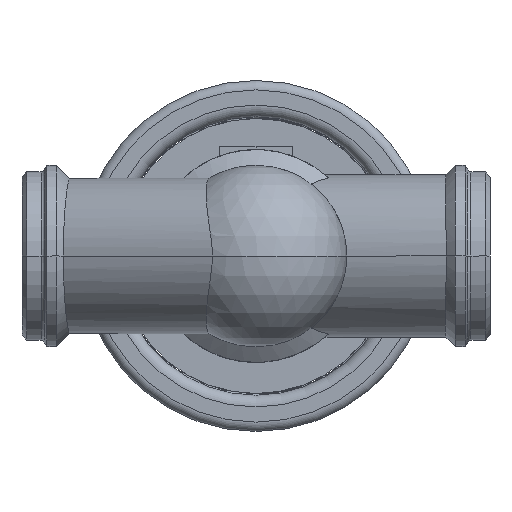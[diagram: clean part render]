
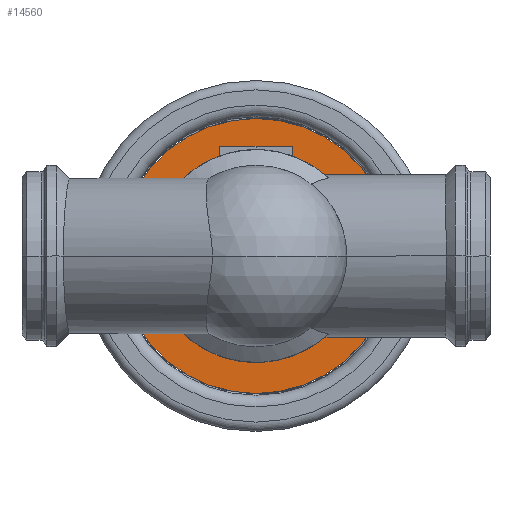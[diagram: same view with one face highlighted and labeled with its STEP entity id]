
A CAD part, front view. The second image highlights one B-rep face of the part: STEP entity #14560.
In plain terms, the highlighted planar face has unit normal (0, -1, 0).
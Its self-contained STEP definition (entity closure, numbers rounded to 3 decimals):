
#6540=CARTESIAN_POINT('',(291.,111.79,0.));
#6550=VERTEX_POINT('',#6540);
#6580=CARTESIAN_POINT('',(200.,111.79,0.));
#6590=DIRECTION('',(0.,1.,0.));
#6600=DIRECTION('',(1.,0.,0.));
#6610=AXIS2_PLACEMENT_3D('',#6580,#6590,#6600);
#6620=CIRCLE('',#6610,91.);
#6630=CARTESIAN_POINT('',(109.,111.79,0.));
#6640=VERTEX_POINT('',#6630);
#6650=EDGE_CURVE('',#6550,#6640,#6620,.T.);
#12080=CARTESIAN_POINT('',(82.5,111.79,0.));
#12090=VERTEX_POINT('',#12080);
#12140=CARTESIAN_POINT('',(200.,111.79,0.));
#12150=DIRECTION('',(0.,-1.,0.));
#12160=DIRECTION('',(1.,0.,0.));
#12170=AXIS2_PLACEMENT_3D('',#12140,#12150,#12160);
#12180=CIRCLE('',#12170,117.5);
#12190=CARTESIAN_POINT('',(317.5,111.79,0.));
#12200=VERTEX_POINT('',#12190);
#12210=EDGE_CURVE('',#12090,#12200,#12180,.T.);
#14410=CARTESIAN_POINT('',(304.75,111.79,0.));
#14420=DIRECTION('',(0.,-1.,0.));
#14430=DIRECTION('',(-1.,0.,0.));
#14440=AXIS2_PLACEMENT_3D('',#14410,#14420,#14430);
#14450=PLANE('',#14440);
#14460=EDGE_CURVE('',#12200,#12090,#12180,.T.);
#14470=ORIENTED_EDGE('',*,*,#14460,.T.);
#14480=ORIENTED_EDGE('',*,*,#12210,.T.);
#14490=EDGE_LOOP('',(#14480,#14470));
#14500=FACE_OUTER_BOUND('',#14490,.T.);
#14510=EDGE_CURVE('',#6640,#6550,#6620,.T.);
#14520=ORIENTED_EDGE('',*,*,#14510,.T.);
#14530=ORIENTED_EDGE('',*,*,#6650,.T.);
#14540=EDGE_LOOP('',(#14530,#14520));
#14550=FACE_BOUND('',#14540,.T.);
#14560=ADVANCED_FACE('',(#14500,#14550),#14450,.T.);
